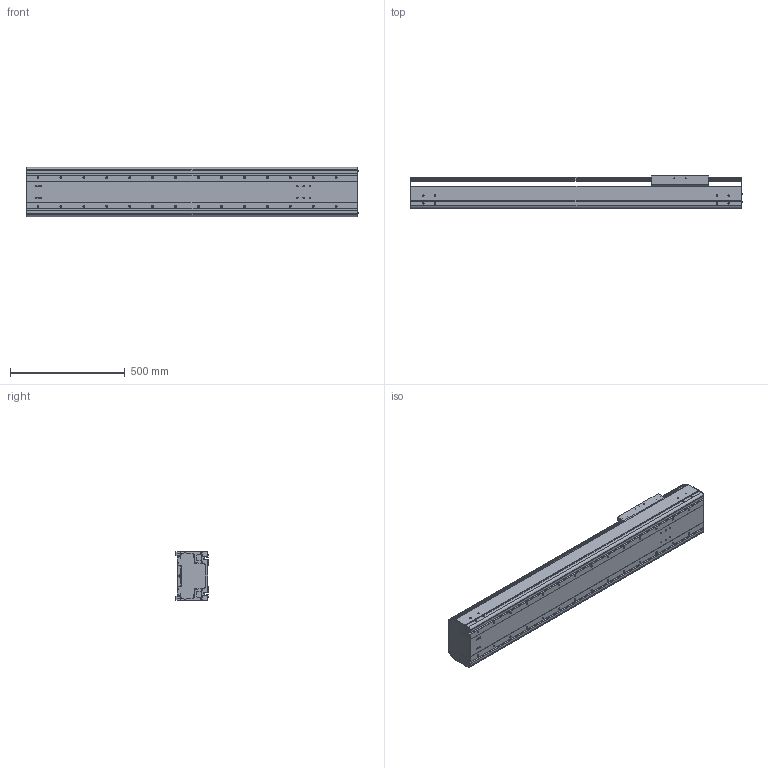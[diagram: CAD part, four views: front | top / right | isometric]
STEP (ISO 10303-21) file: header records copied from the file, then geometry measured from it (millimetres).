
FILE_DESCRIPTION((''),'2;1');
FILE_NAME('BE60G-ST-M_B-A0_IGS_PRT','2017-06-18T',(' '),(''),'PRO/ENGINEER BY PARAMETRIC TECHNOLOGY CORPORATION, 2015030','PRO/ENGINEER BY PARAMETRIC TECHNOLOGY CORPORATION, 2015030','');
FILE_SCHEMA(('CONFIG_CONTROL_DESIGN'));
Length unit declared in the file: millimetre
Products named in the file (1): BE60G-ST-M_B-A0_IGS_PRT
Bounding box: 1447.4 x 140 x 214 mm (x, y, z)
Volume: 2251900.2 mm3; surface area: 3109946.4 mm2
Topology: 2 solids, 145 shells, 1562 faces, 4340 edges, 2864 vertices
Faces by surface type: cylinder 808, plane 598, cone 108, torus 24, sphere 24
Entity records: 51896 total; most frequent: CARTESIAN_POINT 11613, DIRECTION 8488, ORIENTED_EDGE 7904, EDGE_CURVE 4236, AXIS2_PLACEMENT_3D 3167, VERTEX_POINT 2864, VECTOR 2154, LINE 2154
